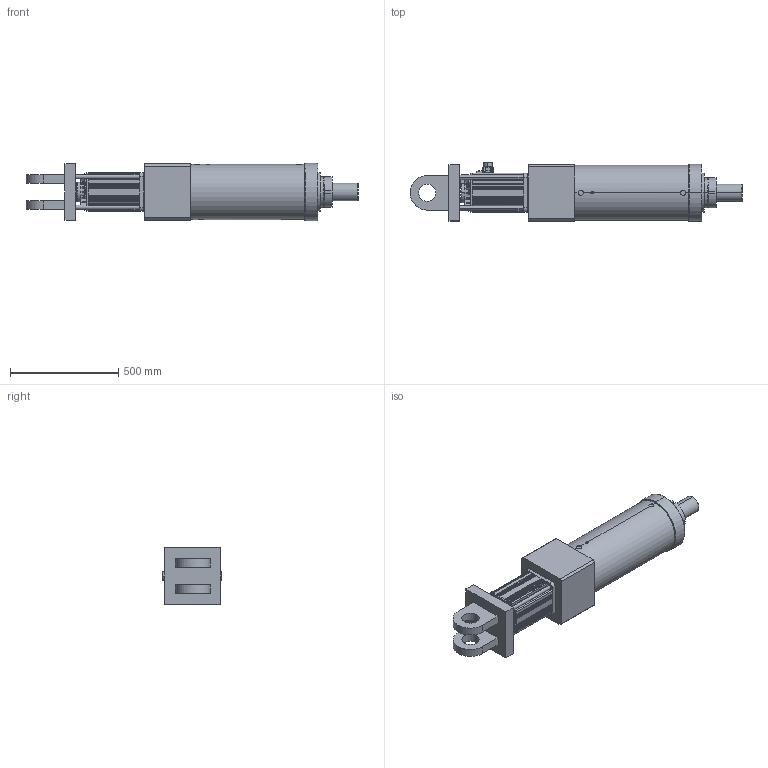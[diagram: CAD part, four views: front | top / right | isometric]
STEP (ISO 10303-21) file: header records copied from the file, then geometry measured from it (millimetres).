
FILE_DESCRIPTION (( 'STEP AP203' ), '1' );
FILE_NAME ('S9眻盄綴帣蝓假蚾.STEP', '2024-05-27T05:45:28', ( '' ), ( '' ), 'SwSTEP 2.0', 'SolidWorks 2018', '' );
FILE_SCHEMA (( 'CONFIG_CONTROL_DESIGN' ));
Length unit declared in the file: millimetre
Products named in the file (3): S9眻盄綴帣蝓; S9眻盄綴帣蝓假蚾; ECMA-LX1855S3-180框號系列機種-5.5KW-400V高慣量系列
Assembly tree (2 placements, depth 2):
  S9眻盄綴帣蝓假蚾
    S9眻盄綴帣蝓
    ECMA-LX1855S3-180框號系列機種-5.5KW-400V高慣量系列
Bounding box: 1533 x 272.52 x 265 mm (x, y, z)
Volume: 59078859.4 mm3; surface area: 1728219.6 mm2
Topology: 2 solids, 4 shells, 752 faces, 1754 edges, 1079 vertices
Faces by surface type: plane 377, cylinder 270, cone 54, bspline 31, torus 20
Entity records: 24101 total; most frequent: CARTESIAN_POINT 6874, ORIENTED_EDGE 3504, DIRECTION 3466, EDGE_CURVE 1752, AXIS2_PLACEMENT_3D 1243, VERTEX_POINT 1079, VECTOR 980, LINE 980
